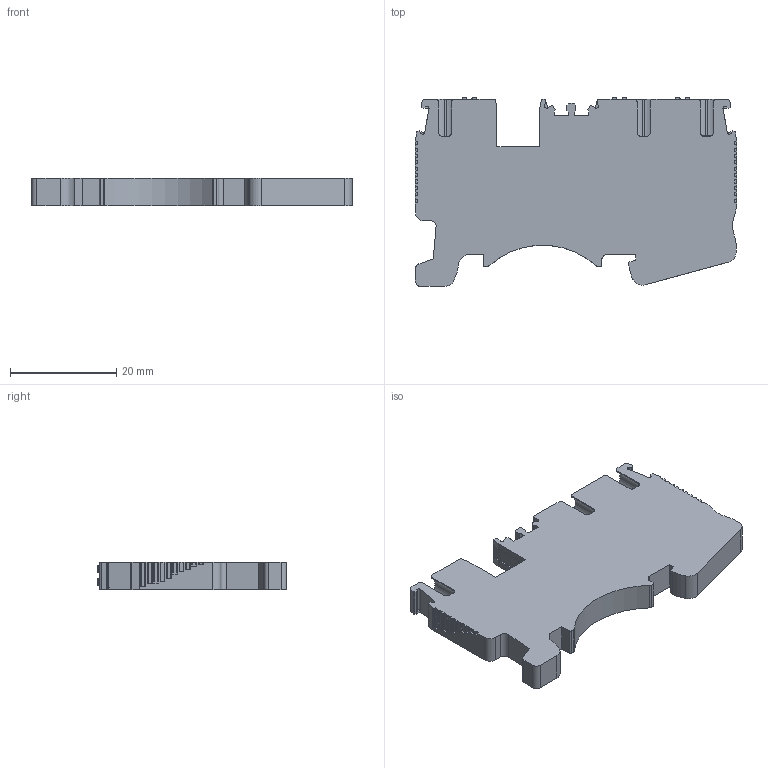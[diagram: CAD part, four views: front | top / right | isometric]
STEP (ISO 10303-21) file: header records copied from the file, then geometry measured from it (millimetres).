
FILE_DESCRIPTION((''),'2;1');
FILE_NAME('PRT0018','2020-05-27T',('Administrator'),(''),'PRO/ENGINEER BY PARAMETRIC TECHNOLOGY CORPORATION, 2010280','PRO/ENGINEER BY PARAMETRIC TECHNOLOGY CORPORATION, 2010280','');
FILE_SCHEMA(('CONFIG_CONTROL_DESIGN'));
Length unit declared in the file: millimetre
Products named in the file (1): PRT0018
Bounding box: 60.5 x 35.55 x 5.2 mm (x, y, z)
Volume: 8416.7 mm3; surface area: 5169.4 mm2
Topology: 1 solids, 1 shells, 506 faces, 1441 edges, 919 vertices
Faces by surface type: plane 340, cylinder 140, sphere 24, cone 2
Entity records: 16375 total; most frequent: CARTESIAN_POINT 3168, ORIENTED_EDGE 2834, DIRECTION 2666, EDGE_CURVE 1417, VECTOR 1078, LINE 1078, VERTEX_POINT 919, AXIS2_PLACEMENT_3D 794
